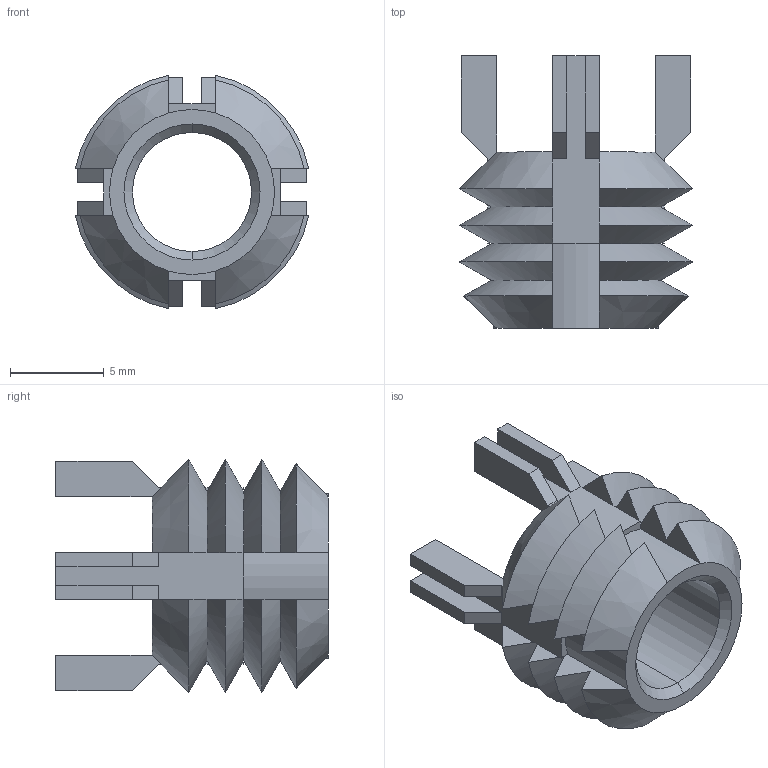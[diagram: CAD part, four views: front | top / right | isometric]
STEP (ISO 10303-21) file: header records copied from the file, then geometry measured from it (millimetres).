
FILE_DESCRIPTION (( 'STEP AP203' ), '1' );
FILE_NAME ('22034.W0341.step', '2023-04-20T09:55:54', ( '' ), ( '' ), 'SwSTEP 2.0', 'SolidWorks 2019', '' );
FILE_SCHEMA (( 'CONFIG_CONTROL_DESIGN' ));
Length unit declared in the file: millimetre
Products named in the file (1): 22034.W0341
Bounding box: 12.45 x 14.54 x 12.45 mm (x, y, z)
Volume: 560.4 mm3; surface area: 1043.4 mm2
Topology: 1 solids, 1 shells, 132 faces, 330 edges, 200 vertices
Faces by surface type: plane 90, cone 36, cylinder 6
Entity records: 4011 total; most frequent: CARTESIAN_POINT 975, ORIENTED_EDGE 660, DIRECTION 544, EDGE_CURVE 330, VERTEX_POINT 200, AXIS2_PLACEMENT_3D 185, LINE 174, VECTOR 174
